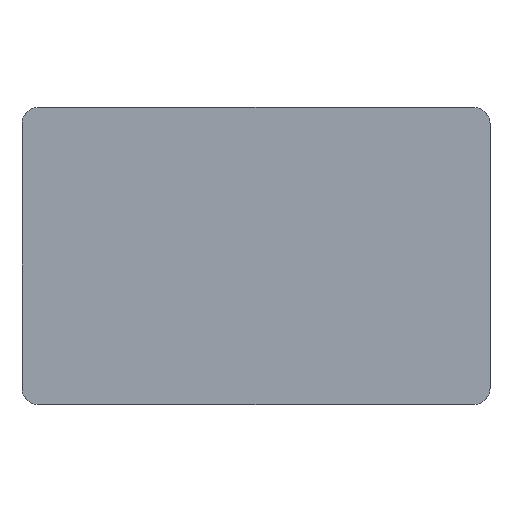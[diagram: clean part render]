
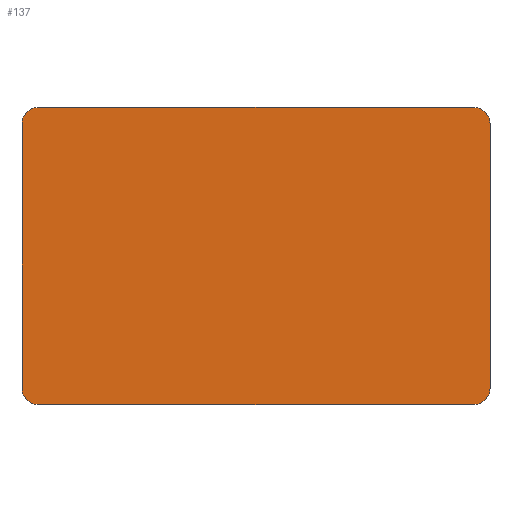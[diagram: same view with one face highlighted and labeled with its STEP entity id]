
A CAD part, top view. The second image highlights one B-rep face of the part: STEP entity #137.
In plain terms, the highlighted planar face has unit normal (0, 0, 1).
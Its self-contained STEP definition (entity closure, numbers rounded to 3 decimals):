
#21 = EDGE_CURVE('',#22,#24,#26,.T.);
#22 = VERTEX_POINT('',#23);
#23 = CARTESIAN_POINT('',(-42.5,-24.,2.));
#24 = VERTEX_POINT('',#25);
#25 = CARTESIAN_POINT('',(-42.5,24.,2.));
#26 = SURFACE_CURVE('',#27,(#31,#43),.PCURVE_S1.);
#27 = LINE('',#28,#29);
#28 = CARTESIAN_POINT('',(-42.5,-27.,2.));
#29 = VECTOR('',#30,1.);
#30 = DIRECTION('',(0.,1.,0.));
#31 = PCURVE('',#32,#37);
#32 = PLANE('',#33);
#33 = AXIS2_PLACEMENT_3D('',#34,#35,#36);
#34 = CARTESIAN_POINT('',(-42.5,-27.,0.));
#35 = DIRECTION('',(1.,0.,0.));
#36 = DIRECTION('',(0.,0.,1.));
#37 = DEFINITIONAL_REPRESENTATION('',(#38),#42);
#38 = LINE('',#39,#40);
#39 = CARTESIAN_POINT('',(2.,0.));
#40 = VECTOR('',#41,1.);
#41 = DIRECTION('',(0.,-1.));
#42 = ( GEOMETRIC_REPRESENTATION_CONTEXT(2) 
PARAMETRIC_REPRESENTATION_CONTEXT() REPRESENTATION_CONTEXT('2D SPACE',''
  ) );
#43 = PCURVE('',#44,#49);
#44 = PLANE('',#45);
#45 = AXIS2_PLACEMENT_3D('',#46,#47,#48);
#46 = CARTESIAN_POINT('',(-42.5,-27.,2.));
#47 = DIRECTION('',(0.,0.,1.));
#48 = DIRECTION('',(1.,0.,0.));
#49 = DEFINITIONAL_REPRESENTATION('',(#50),#54);
#50 = LINE('',#51,#52);
#51 = CARTESIAN_POINT('',(0.,0.));
#52 = VECTOR('',#53,1.);
#53 = DIRECTION('',(0.,1.));
#54 = ( GEOMETRIC_REPRESENTATION_CONTEXT(2) 
PARAMETRIC_REPRESENTATION_CONTEXT() REPRESENTATION_CONTEXT('2D SPACE',''
  ) );
#72 = CYLINDRICAL_SURFACE('',#73,3.);
#73 = AXIS2_PLACEMENT_3D('',#74,#75,#76);
#74 = CARTESIAN_POINT('',(-39.5,-24.,0.));
#75 = DIRECTION('',(0.,0.,1.));
#76 = DIRECTION('',(-1.,-0.,0.));
#126 = CYLINDRICAL_SURFACE('',#127,3.);
#127 = AXIS2_PLACEMENT_3D('',#128,#129,#130);
#128 = CARTESIAN_POINT('',(-39.5,24.,0.));
#129 = DIRECTION('',(0.,0.,1.));
#130 = DIRECTION('',(-1.,-0.,0.));
#137 = ADVANCED_FACE('',(#138),#44,.T.);
#138 = FACE_BOUND('',#139,.T.);
#139 = EDGE_LOOP('',(#140,#141,#165,#193,#226,#254,#283,#311));
#140 = ORIENTED_EDGE('',*,*,#21,.F.);
#141 = ORIENTED_EDGE('',*,*,#142,.T.);
#142 = EDGE_CURVE('',#22,#143,#145,.T.);
#143 = VERTEX_POINT('',#144);
#144 = CARTESIAN_POINT('',(-39.5,-27.,2.));
#145 = SURFACE_CURVE('',#146,(#151,#158),.PCURVE_S1.);
#146 = CIRCLE('',#147,3.);
#147 = AXIS2_PLACEMENT_3D('',#148,#149,#150);
#148 = CARTESIAN_POINT('',(-39.5,-24.,2.));
#149 = DIRECTION('',(0.,0.,1.));
#150 = DIRECTION('',(0.,-1.,0.));
#151 = PCURVE('',#44,#152);
#152 = DEFINITIONAL_REPRESENTATION('',(#153),#157);
#153 = CIRCLE('',#154,3.);
#154 = AXIS2_PLACEMENT_2D('',#155,#156);
#155 = CARTESIAN_POINT('',(3.,3.));
#156 = DIRECTION('',(0.,-1.));
#157 = ( GEOMETRIC_REPRESENTATION_CONTEXT(2) 
PARAMETRIC_REPRESENTATION_CONTEXT() REPRESENTATION_CONTEXT('2D SPACE',''
  ) );
#158 = PCURVE('',#72,#159);
#159 = DEFINITIONAL_REPRESENTATION('',(#160),#164);
#160 = LINE('',#161,#162);
#161 = CARTESIAN_POINT('',(-4.712,2.));
#162 = VECTOR('',#163,1.);
#163 = DIRECTION('',(1.,0.));
#164 = ( GEOMETRIC_REPRESENTATION_CONTEXT(2) 
PARAMETRIC_REPRESENTATION_CONTEXT() REPRESENTATION_CONTEXT('2D SPACE',''
  ) );
#165 = ORIENTED_EDGE('',*,*,#166,.T.);
#166 = EDGE_CURVE('',#143,#167,#169,.T.);
#167 = VERTEX_POINT('',#168);
#168 = CARTESIAN_POINT('',(39.5,-27.,2.));
#169 = SURFACE_CURVE('',#170,(#174,#181),.PCURVE_S1.);
#170 = LINE('',#171,#172);
#171 = CARTESIAN_POINT('',(-42.5,-27.,2.));
#172 = VECTOR('',#173,1.);
#173 = DIRECTION('',(1.,0.,0.));
#174 = PCURVE('',#44,#175);
#175 = DEFINITIONAL_REPRESENTATION('',(#176),#180);
#176 = LINE('',#177,#178);
#177 = CARTESIAN_POINT('',(0.,0.));
#178 = VECTOR('',#179,1.);
#179 = DIRECTION('',(1.,0.));
#180 = ( GEOMETRIC_REPRESENTATION_CONTEXT(2) 
PARAMETRIC_REPRESENTATION_CONTEXT() REPRESENTATION_CONTEXT('2D SPACE',''
  ) );
#181 = PCURVE('',#182,#187);
#182 = PLANE('',#183);
#183 = AXIS2_PLACEMENT_3D('',#184,#185,#186);
#184 = CARTESIAN_POINT('',(-42.5,-27.,0.));
#185 = DIRECTION('',(0.,1.,0.));
#186 = DIRECTION('',(0.,0.,1.));
#187 = DEFINITIONAL_REPRESENTATION('',(#188),#192);
#188 = LINE('',#189,#190);
#189 = CARTESIAN_POINT('',(2.,0.));
#190 = VECTOR('',#191,1.);
#191 = DIRECTION('',(0.,1.));
#192 = ( GEOMETRIC_REPRESENTATION_CONTEXT(2) 
PARAMETRIC_REPRESENTATION_CONTEXT() REPRESENTATION_CONTEXT('2D SPACE',''
  ) );
#193 = ORIENTED_EDGE('',*,*,#194,.F.);
#194 = EDGE_CURVE('',#195,#167,#197,.T.);
#195 = VERTEX_POINT('',#196);
#196 = CARTESIAN_POINT('',(42.5,-24.,2.));
#197 = SURFACE_CURVE('',#198,(#203,#214),.PCURVE_S1.);
#198 = CIRCLE('',#199,3.);
#199 = AXIS2_PLACEMENT_3D('',#200,#201,#202);
#200 = CARTESIAN_POINT('',(39.5,-24.,2.));
#201 = DIRECTION('',(-0.,-0.,-1.));
#202 = DIRECTION('',(0.,-1.,0.));
#203 = PCURVE('',#44,#204);
#204 = DEFINITIONAL_REPRESENTATION('',(#205),#213);
#205 = ( BOUNDED_CURVE() B_SPLINE_CURVE(2,(#206,#207,#208,#209,#210,#211
,#212),.UNSPECIFIED.,.T.,.F.) B_SPLINE_CURVE_WITH_KNOTS((1,2,2,2,2,1),(
    -2.094,0.,2.094,4.189,6.283,
8.378),.UNSPECIFIED.) CURVE() GEOMETRIC_REPRESENTATION_ITEM() 
RATIONAL_B_SPLINE_CURVE((1.,0.5,1.,0.5,1.,0.5,1.)) REPRESENTATION_ITEM(
  '') );
#206 = CARTESIAN_POINT('',(82.,0.));
#207 = CARTESIAN_POINT('',(76.804,0.));
#208 = CARTESIAN_POINT('',(79.402,4.5));
#209 = CARTESIAN_POINT('',(82.,9.));
#210 = CARTESIAN_POINT('',(84.598,4.5));
#211 = CARTESIAN_POINT('',(87.196,0.));
#212 = CARTESIAN_POINT('',(82.,0.));
#213 = ( GEOMETRIC_REPRESENTATION_CONTEXT(2) 
PARAMETRIC_REPRESENTATION_CONTEXT() REPRESENTATION_CONTEXT('2D SPACE',''
  ) );
#214 = PCURVE('',#215,#220);
#215 = CYLINDRICAL_SURFACE('',#216,3.);
#216 = AXIS2_PLACEMENT_3D('',#217,#218,#219);
#217 = CARTESIAN_POINT('',(39.5,-24.,0.));
#218 = DIRECTION('',(0.,0.,1.));
#219 = DIRECTION('',(1.,0.,-0.));
#220 = DEFINITIONAL_REPRESENTATION('',(#221),#225);
#221 = LINE('',#222,#223);
#222 = CARTESIAN_POINT('',(4.712,2.));
#223 = VECTOR('',#224,1.);
#224 = DIRECTION('',(-1.,0.));
#225 = ( GEOMETRIC_REPRESENTATION_CONTEXT(2) 
PARAMETRIC_REPRESENTATION_CONTEXT() REPRESENTATION_CONTEXT('2D SPACE',''
  ) );
#226 = ORIENTED_EDGE('',*,*,#227,.T.);
#227 = EDGE_CURVE('',#195,#228,#230,.T.);
#228 = VERTEX_POINT('',#229);
#229 = CARTESIAN_POINT('',(42.5,24.,2.));
#230 = SURFACE_CURVE('',#231,(#235,#242),.PCURVE_S1.);
#231 = LINE('',#232,#233);
#232 = CARTESIAN_POINT('',(42.5,-27.,2.));
#233 = VECTOR('',#234,1.);
#234 = DIRECTION('',(0.,1.,0.));
#235 = PCURVE('',#44,#236);
#236 = DEFINITIONAL_REPRESENTATION('',(#237),#241);
#237 = LINE('',#238,#239);
#238 = CARTESIAN_POINT('',(85.,0.));
#239 = VECTOR('',#240,1.);
#240 = DIRECTION('',(0.,1.));
#241 = ( GEOMETRIC_REPRESENTATION_CONTEXT(2) 
PARAMETRIC_REPRESENTATION_CONTEXT() REPRESENTATION_CONTEXT('2D SPACE',''
  ) );
#242 = PCURVE('',#243,#248);
#243 = PLANE('',#244);
#244 = AXIS2_PLACEMENT_3D('',#245,#246,#247);
#245 = CARTESIAN_POINT('',(42.5,-27.,0.));
#246 = DIRECTION('',(1.,0.,0.));
#247 = DIRECTION('',(0.,0.,1.));
#248 = DEFINITIONAL_REPRESENTATION('',(#249),#253);
#249 = LINE('',#250,#251);
#250 = CARTESIAN_POINT('',(2.,0.));
#251 = VECTOR('',#252,1.);
#252 = DIRECTION('',(0.,-1.));
#253 = ( GEOMETRIC_REPRESENTATION_CONTEXT(2) 
PARAMETRIC_REPRESENTATION_CONTEXT() REPRESENTATION_CONTEXT('2D SPACE',''
  ) );
#254 = ORIENTED_EDGE('',*,*,#255,.T.);
#255 = EDGE_CURVE('',#228,#256,#258,.T.);
#256 = VERTEX_POINT('',#257);
#257 = CARTESIAN_POINT('',(39.5,27.,2.));
#258 = SURFACE_CURVE('',#259,(#264,#271),.PCURVE_S1.);
#259 = CIRCLE('',#260,3.);
#260 = AXIS2_PLACEMENT_3D('',#261,#262,#263);
#261 = CARTESIAN_POINT('',(39.5,24.,2.));
#262 = DIRECTION('',(0.,0.,1.));
#263 = DIRECTION('',(0.,-1.,0.));
#264 = PCURVE('',#44,#265);
#265 = DEFINITIONAL_REPRESENTATION('',(#266),#270);
#266 = CIRCLE('',#267,3.);
#267 = AXIS2_PLACEMENT_2D('',#268,#269);
#268 = CARTESIAN_POINT('',(82.,51.));
#269 = DIRECTION('',(0.,-1.));
#270 = ( GEOMETRIC_REPRESENTATION_CONTEXT(2) 
PARAMETRIC_REPRESENTATION_CONTEXT() REPRESENTATION_CONTEXT('2D SPACE',''
  ) );
#271 = PCURVE('',#272,#277);
#272 = CYLINDRICAL_SURFACE('',#273,3.);
#273 = AXIS2_PLACEMENT_3D('',#274,#275,#276);
#274 = CARTESIAN_POINT('',(39.5,24.,0.));
#275 = DIRECTION('',(0.,0.,1.));
#276 = DIRECTION('',(1.,0.,-0.));
#277 = DEFINITIONAL_REPRESENTATION('',(#278),#282);
#278 = LINE('',#279,#280);
#279 = CARTESIAN_POINT('',(-1.571,2.));
#280 = VECTOR('',#281,1.);
#281 = DIRECTION('',(1.,0.));
#282 = ( GEOMETRIC_REPRESENTATION_CONTEXT(2) 
PARAMETRIC_REPRESENTATION_CONTEXT() REPRESENTATION_CONTEXT('2D SPACE',''
  ) );
#283 = ORIENTED_EDGE('',*,*,#284,.F.);
#284 = EDGE_CURVE('',#285,#256,#287,.T.);
#285 = VERTEX_POINT('',#286);
#286 = CARTESIAN_POINT('',(-39.5,27.,2.));
#287 = SURFACE_CURVE('',#288,(#292,#299),.PCURVE_S1.);
#288 = LINE('',#289,#290);
#289 = CARTESIAN_POINT('',(-42.5,27.,2.));
#290 = VECTOR('',#291,1.);
#291 = DIRECTION('',(1.,0.,0.));
#292 = PCURVE('',#44,#293);
#293 = DEFINITIONAL_REPRESENTATION('',(#294),#298);
#294 = LINE('',#295,#296);
#295 = CARTESIAN_POINT('',(0.,54.));
#296 = VECTOR('',#297,1.);
#297 = DIRECTION('',(1.,0.));
#298 = ( GEOMETRIC_REPRESENTATION_CONTEXT(2) 
PARAMETRIC_REPRESENTATION_CONTEXT() REPRESENTATION_CONTEXT('2D SPACE',''
  ) );
#299 = PCURVE('',#300,#305);
#300 = PLANE('',#301);
#301 = AXIS2_PLACEMENT_3D('',#302,#303,#304);
#302 = CARTESIAN_POINT('',(-42.5,27.,0.));
#303 = DIRECTION('',(0.,1.,0.));
#304 = DIRECTION('',(0.,0.,1.));
#305 = DEFINITIONAL_REPRESENTATION('',(#306),#310);
#306 = LINE('',#307,#308);
#307 = CARTESIAN_POINT('',(2.,0.));
#308 = VECTOR('',#309,1.);
#309 = DIRECTION('',(0.,1.));
#310 = ( GEOMETRIC_REPRESENTATION_CONTEXT(2) 
PARAMETRIC_REPRESENTATION_CONTEXT() REPRESENTATION_CONTEXT('2D SPACE',''
  ) );
#311 = ORIENTED_EDGE('',*,*,#312,.F.);
#312 = EDGE_CURVE('',#24,#285,#313,.T.);
#313 = SURFACE_CURVE('',#314,(#319,#330),.PCURVE_S1.);
#314 = CIRCLE('',#315,3.);
#315 = AXIS2_PLACEMENT_3D('',#316,#317,#318);
#316 = CARTESIAN_POINT('',(-39.5,24.,2.));
#317 = DIRECTION('',(-0.,-0.,-1.));
#318 = DIRECTION('',(0.,-1.,0.));
#319 = PCURVE('',#44,#320);
#320 = DEFINITIONAL_REPRESENTATION('',(#321),#329);
#321 = ( BOUNDED_CURVE() B_SPLINE_CURVE(2,(#322,#323,#324,#325,#326,#327
,#328),.UNSPECIFIED.,.T.,.F.) B_SPLINE_CURVE_WITH_KNOTS((1,2,2,2,2,1),(
    -2.094,0.,2.094,4.189,6.283,
8.378),.UNSPECIFIED.) CURVE() GEOMETRIC_REPRESENTATION_ITEM() 
RATIONAL_B_SPLINE_CURVE((1.,0.5,1.,0.5,1.,0.5,1.)) REPRESENTATION_ITEM(
  '') );
#322 = CARTESIAN_POINT('',(3.,48.));
#323 = CARTESIAN_POINT('',(-2.196,48.));
#324 = CARTESIAN_POINT('',(0.402,52.5));
#325 = CARTESIAN_POINT('',(3.,57.));
#326 = CARTESIAN_POINT('',(5.598,52.5));
#327 = CARTESIAN_POINT('',(8.196,48.));
#328 = CARTESIAN_POINT('',(3.,48.));
#329 = ( GEOMETRIC_REPRESENTATION_CONTEXT(2) 
PARAMETRIC_REPRESENTATION_CONTEXT() REPRESENTATION_CONTEXT('2D SPACE',''
  ) );
#330 = PCURVE('',#126,#331);
#331 = DEFINITIONAL_REPRESENTATION('',(#332),#336);
#332 = LINE('',#333,#334);
#333 = CARTESIAN_POINT('',(1.571,2.));
#334 = VECTOR('',#335,1.);
#335 = DIRECTION('',(-1.,0.));
#336 = ( GEOMETRIC_REPRESENTATION_CONTEXT(2) 
PARAMETRIC_REPRESENTATION_CONTEXT() REPRESENTATION_CONTEXT('2D SPACE',''
  ) );
